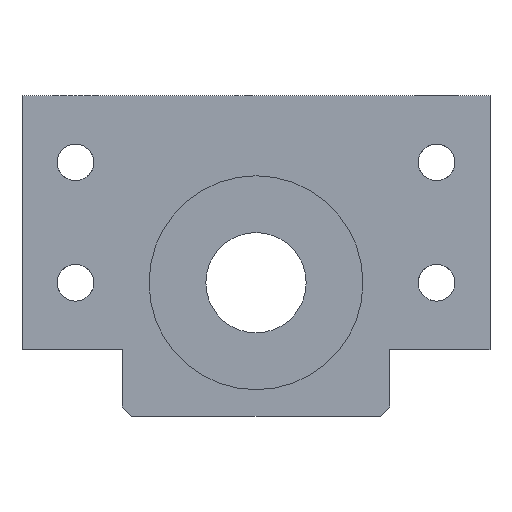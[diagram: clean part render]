
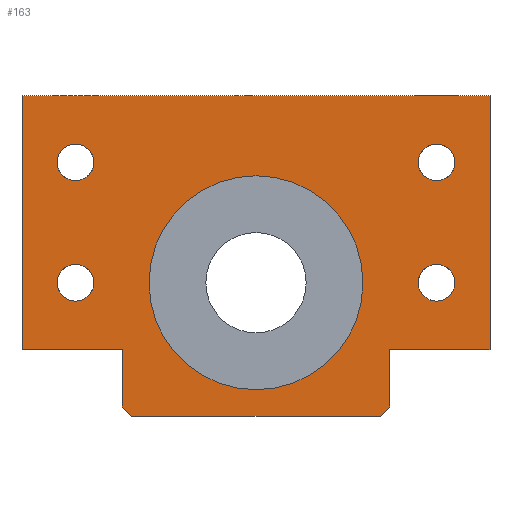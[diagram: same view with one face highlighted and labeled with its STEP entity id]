
A CAD part, left-side view. The second image highlights one B-rep face of the part: STEP entity #163.
In plain terms, the highlighted planar face has unit normal (-1, 0, 0).
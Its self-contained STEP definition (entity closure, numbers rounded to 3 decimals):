
#83=LINE('',#1121,#113);
#84=LINE('',#1125,#114);
#85=LINE('',#1127,#115);
#86=LINE('',#1129,#116);
#87=LINE('',#1131,#117);
#88=LINE('',#1133,#118);
#89=LINE('',#1135,#119);
#90=LINE('',#1137,#120);
#91=LINE('',#1139,#121);
#92=LINE('',#1141,#122);
#113=VECTOR('',#686,1.);
#114=VECTOR('',#691,1.);
#115=VECTOR('',#692,1.);
#116=VECTOR('',#693,1.);
#117=VECTOR('',#694,1.);
#118=VECTOR('',#695,1.);
#119=VECTOR('',#696,1.);
#120=VECTOR('',#697,1.);
#121=VECTOR('',#698,1.);
#122=VECTOR('',#699,1.);
#142=PLANE('',#618);
#163=ADVANCED_FACE('',(#243,#244,#245,#246,#247,#248),#142,.T.);
#204=CIRCLE('',#603,2.75);
#205=CIRCLE('',#605,2.75);
#210=CIRCLE('',#615,2.75);
#211=CIRCLE('',#616,2.75);
#212=CIRCLE('',#617,16.);
#243=FACE_BOUND('',#308,.T.);
#244=FACE_BOUND('',#309,.T.);
#245=FACE_BOUND('',#310,.T.);
#246=FACE_BOUND('',#311,.T.);
#247=FACE_BOUND('',#312,.T.);
#248=FACE_BOUND('',#313,.T.);
#308=EDGE_LOOP('',(#383,#384,#385,#386,#387,#388,#389,#390,#391,#392));
#309=EDGE_LOOP('',(#393));
#310=EDGE_LOOP('',(#394));
#311=EDGE_LOOP('',(#395));
#312=EDGE_LOOP('',(#396));
#313=EDGE_LOOP('',(#397));
#383=ORIENTED_EDGE('',*,*,#547,.T.);
#384=ORIENTED_EDGE('',*,*,#548,.T.);
#385=ORIENTED_EDGE('',*,*,#549,.T.);
#386=ORIENTED_EDGE('',*,*,#550,.T.);
#387=ORIENTED_EDGE('',*,*,#551,.T.);
#388=ORIENTED_EDGE('',*,*,#552,.T.);
#389=ORIENTED_EDGE('',*,*,#553,.T.);
#390=ORIENTED_EDGE('',*,*,#554,.T.);
#391=ORIENTED_EDGE('',*,*,#555,.T.);
#392=ORIENTED_EDGE('',*,*,#545,.T.);
#393=ORIENTED_EDGE('',*,*,#556,.F.);
#394=ORIENTED_EDGE('',*,*,#557,.F.);
#395=ORIENTED_EDGE('',*,*,#537,.F.);
#396=ORIENTED_EDGE('',*,*,#538,.F.);
#397=ORIENTED_EDGE('',*,*,#558,.F.);
#487=VERTEX_POINT('',#1100);
#488=VERTEX_POINT('',#1103);
#493=VERTEX_POINT('',#1116);
#495=VERTEX_POINT('',#1120);
#497=VERTEX_POINT('',#1126);
#498=VERTEX_POINT('',#1128);
#499=VERTEX_POINT('',#1130);
#500=VERTEX_POINT('',#1132);
#501=VERTEX_POINT('',#1134);
#502=VERTEX_POINT('',#1136);
#503=VERTEX_POINT('',#1138);
#504=VERTEX_POINT('',#1140);
#505=VERTEX_POINT('',#1143);
#506=VERTEX_POINT('',#1145);
#507=VERTEX_POINT('',#1147);
#537=EDGE_CURVE('GENERATED CIRCLE',#487,#487,#204,.T.);
#538=EDGE_CURVE('GENERATED CIRCLE',#488,#488,#205,.T.);
#545=EDGE_CURVE('LINE',#493,#495,#83,.T.);
#547=EDGE_CURVE('LINE',#495,#497,#84,.T.);
#548=EDGE_CURVE('LINE',#497,#498,#85,.T.);
#549=EDGE_CURVE('LINE',#498,#499,#86,.T.);
#550=EDGE_CURVE('LINE',#499,#500,#87,.T.);
#551=EDGE_CURVE('LINE',#500,#501,#88,.T.);
#552=EDGE_CURVE('LINE',#501,#502,#89,.T.);
#553=EDGE_CURVE('LINE',#502,#503,#90,.T.);
#554=EDGE_CURVE('LINE',#503,#504,#91,.T.);
#555=EDGE_CURVE('LINE',#504,#493,#92,.T.);
#556=EDGE_CURVE('GENERATED CIRCLE',#505,#505,#210,.T.);
#557=EDGE_CURVE('GENERATED CIRCLE',#506,#506,#211,.T.);
#558=EDGE_CURVE('GENERATED CIRCLE',#507,#507,#212,.T.);
#603=AXIS2_PLACEMENT_3D('',#1099,#663,#664);
#605=AXIS2_PLACEMENT_3D('',#1102,#667,#668);
#615=AXIS2_PLACEMENT_3D('',#1142,#700,#701);
#616=AXIS2_PLACEMENT_3D('',#1144,#702,#703);
#617=AXIS2_PLACEMENT_3D('',#1146,#704,#705);
#618=AXIS2_PLACEMENT_3D('',#1148,#706,#707);
#663=DIRECTION('',(-1.,0.,0.));
#664=DIRECTION('',(0.,0.,1.));
#667=DIRECTION('',(-1.,0.,0.));
#668=DIRECTION('',(0.,0.,1.));
#686=DIRECTION('',(0.,1.,0.));
#691=DIRECTION('',(0.,0.,-1.));
#692=DIRECTION('',(0.,-1.,0.));
#693=DIRECTION('',(0.,0.,-1.));
#694=DIRECTION('',(0.,-0.707,-0.707));
#695=DIRECTION('',(0.,-1.,0.));
#696=DIRECTION('',(0.,-0.707,0.707));
#697=DIRECTION('',(0.,0.,1.));
#698=DIRECTION('',(0.,-1.,0.));
#699=DIRECTION('',(0.,0.,1.));
#700=DIRECTION('',(-1.,0.,0.));
#701=DIRECTION('',(0.,0.,1.));
#702=DIRECTION('',(-1.,0.,0.));
#703=DIRECTION('',(0.,0.,1.));
#704=DIRECTION('',(-1.,0.,0.));
#705=DIRECTION('',(0.,0.,1.));
#706=DIRECTION('',(-1.,0.,0.));
#707=DIRECTION('',(0.,-1.,0.));
#1099=CARTESIAN_POINT('',(-30.,-27.,-10.));
#1100=CARTESIAN_POINT('',(-30.,-27.,-7.25));
#1102=CARTESIAN_POINT('',(-30.,-27.,-28.));
#1103=CARTESIAN_POINT('',(-30.,-27.,-25.25));
#1116=CARTESIAN_POINT('',(-30.,-35.,0.));
#1120=CARTESIAN_POINT('',(-30.,35.,0.));
#1121=CARTESIAN_POINT('',(-30.,0.,0.));
#1125=CARTESIAN_POINT('',(-30.,35.,-19.));
#1126=CARTESIAN_POINT('',(-30.,35.,-38.));
#1127=CARTESIAN_POINT('',(-30.,27.5,-38.));
#1128=CARTESIAN_POINT('',(-30.,20.,-38.));
#1129=CARTESIAN_POINT('',(-30.,20.,-42.293));
#1130=CARTESIAN_POINT('',(-30.,20.,-46.586));
#1131=CARTESIAN_POINT('',(-30.,19.293,-47.293));
#1132=CARTESIAN_POINT('',(-30.,18.586,-48.));
#1133=CARTESIAN_POINT('',(-30.,0.,-48.));
#1134=CARTESIAN_POINT('',(-30.,-18.586,-48.));
#1135=CARTESIAN_POINT('',(-30.,-19.293,-47.293));
#1136=CARTESIAN_POINT('',(-30.,-20.,-46.586));
#1137=CARTESIAN_POINT('',(-30.,-20.,-42.293));
#1138=CARTESIAN_POINT('',(-30.,-20.,-38.));
#1139=CARTESIAN_POINT('',(-30.,-27.5,-38.));
#1140=CARTESIAN_POINT('',(-30.,-35.,-38.));
#1141=CARTESIAN_POINT('',(-30.,-35.,-19.));
#1142=CARTESIAN_POINT('',(-30.,27.,-10.));
#1143=CARTESIAN_POINT('',(-30.,27.,-7.25));
#1144=CARTESIAN_POINT('',(-30.,27.,-28.));
#1145=CARTESIAN_POINT('',(-30.,27.,-25.25));
#1146=CARTESIAN_POINT('',(-30.,0.,-28.));
#1147=CARTESIAN_POINT('',(-30.,0.,-12.));
#1148=CARTESIAN_POINT('',(-30.,0.,0.));
